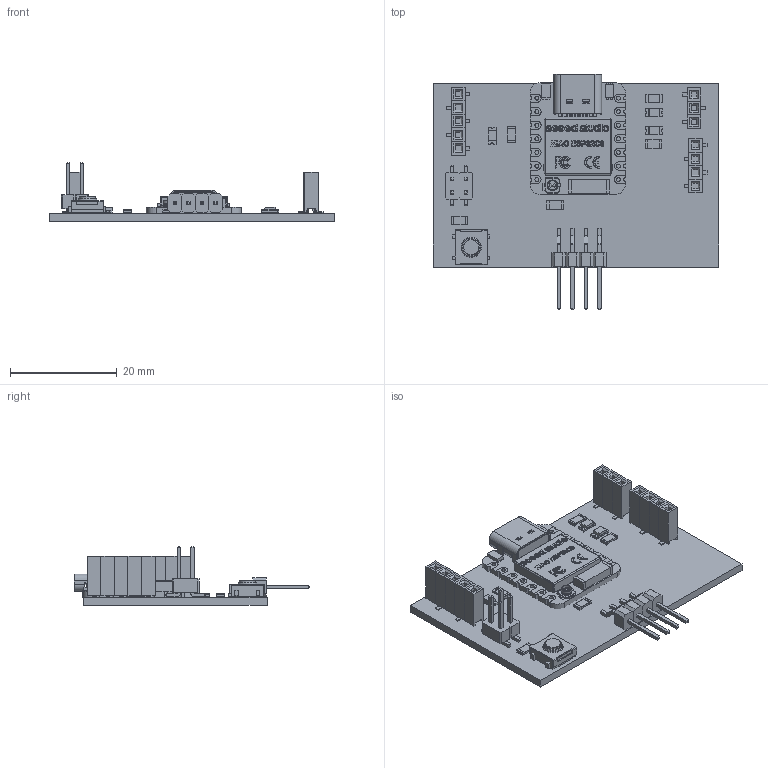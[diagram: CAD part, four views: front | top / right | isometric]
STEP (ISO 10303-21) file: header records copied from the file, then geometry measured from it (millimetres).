
FILE_DESCRIPTION(('KiCad electronic assembly'),'2;1');
FILE_NAME('Week6_DevBoard(XIAOESP32C6).step','2025-03-05T14:16:04',( 'Pcbnew'),('Kicad'),'Open CASCADE STEP processor 7.8', 'KiCad to STEP converter','Unknown');
FILE_SCHEMA(('AUTOMOTIVE_DESIGN { 1 0 10303 214 1 1 1 1 }'));
Length unit declared in the file: millimetre
Products named in the file (76): Week6_DevBoard(XIAOESP32C6) 1; PinSocket-01x04_P2.54mm_Vertical_SMD; Week6_DevBoard(XIAOESP32C6) 1.1.1; Week6_DevBoard(XIAOESP32C6) 1.1.2; Week6_DevBoard(XIAOESP32C6) 1.1.3; Week6_DevBoard(XIAOESP32C6) 1.1.4; Resistor-1206; Ceramic; Contacts; Contacts (Mirror #1); Overcoat; Header_SMD_01x04_P2.54mm_Horizontal_Male; Week6_DevBoard(XIAOESP32C6) 1.3.1; Week6_DevBoard(XIAOESP32C6) 1.3.2; Seeed Studio XIAO ESP32C6 v2; XIAO-ESP32S3 v2 v1; Seeed Studio XIAO-ESP32-S3 (Sense); USB TYPE C PORT; USB TYPE C PORT (1); BOSS-EXTRUDE14_8_; BOSS-EXTRUDE7_4_; BOSS-EXTRUDE7_3_; BOSS-EXTRUDE14_4_; BOSS-EXTRUDE14_2_; BOSS-EXTRUDE14_11_; BOSS-EXTRUDE7_7_; BOSS-EXTRUDE14_9_; BOSS-EXTRUDE14_3_; BOSS-EXTRUDE14_7_; MIRROR2; BOSS-EXTRUDE14_5_; BOSS-EXTRUDE14_12_; BOSS-EXTRUDE7_8_; BOSS-EXTRUDE7_1_; BOSS-EXTRUDE14_10_; BOSS-EXTRUDE7_9_; BOSS-EXTRUDE14_6_; CHAMFER9; BOSS-EXTRUDE14_1_; BOSS-EXTRUDE7_6_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
Assembly tree (82 placements, depth 7):
  Week6_DevBoard(XIAOESP32C6) 1
    PinSocket-01x04_P2.54mm_Vertical_SMD
      Week6_DevBoard(XIAOESP32C6) 1.1.1
      Week6_DevBoard(XIAOESP32C6) 1.1.2
      Week6_DevBoard(XIAOESP32C6) 1.1.3
      Week6_DevBoard(XIAOESP32C6) 1.1.4
    Resistor-1206  x5
      Ceramic
      Contacts
      Contacts (Mirror #1)
      Overcoat
    Header_SMD_01x04_P2.54mm_Horizontal_Male
      Week6_DevBoard(XIAOESP32C6) 1.3.1
      Week6_DevBoard(XIAOESP32C6) 1.3.2
    Seeed Studio XIAO ESP32C6 v2
      XIAO-ESP32S3 v2 v1
        Seeed Studio XIAO-ESP32-S3 (Sense)
          USB TYPE C PORT
            USB TYPE C PORT (1)
              BOSS-EXTRUDE14_8_
              BOSS-EXTRUDE7_4_
              BOSS-EXTRUDE7_3_
              BOSS-EXTRUDE14_4_
              BOSS-EXTRUDE14_2_
              BOSS-EXTRUDE14_11_
              BOSS-EXTRUDE7_7_
              BOSS-EXTRUDE14_9_
              BOSS-EXTRUDE14_3_
              BOSS-EXTRUDE14_7_
              MIRROR2
              BOSS-EXTRUDE14_5_
              BOSS-EXTRUDE14_12_
              BOSS-EXTRUDE7_8_
              BOSS-EXTRUDE7_1_
              BOSS-EXTRUDE14_10_
              BOSS-EXTRUDE7_9_
              BOSS-EXTRUDE14_6_
              CHAMFER9
              BOSS-EXTRUDE14_1_
              BOSS-EXTRUDE7_6_
              BOSS-EXTRUDE7_2_
              CUT-EXTRUDE5
              BOSS-EXTRUDE7_5_
          Shield
          SKTAAAE010 v1  x2
            Body
            Pins
          U.FL-R-SMT-1_10_ v1
          SOLID
      COMPOUND
    LED-1206  x3
      Base
      Emmiter
      Contact_1
      Contact_2
    PinHeader_2x02_P2.54mm_Vertical_SMD
    PinSocket-01x05_P2.54mm_Vertical_SMD
      Week6_DevBoard(XIAOESP32C6) 1.13.1
      Week6_DevBoard(XIAOESP32C6) 1.13.2
      Week6_DevBoard(XIAOESP32C6) 1.13.3
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Bounding box: 53.4 x 44.02 x 10.89 mm (x, y, z)
Volume: 4223.1 mm3; surface area: 8597.7 mm2
Topology: 117 solids, 122 shells, 2662 faces, 6765 edges, 4406 vertices
Faces by surface type: plane 2051, bspline 315, cylinder 257, torus 15, cone 10, revolution 8, sphere 6
Full cylindrical faces by diameter (mm): 0.5 x3, 0.6 x2, 0.75 x14, 1.524 x8, 1.72 x1, 1.86 x1, 2 x2, 3 x2
Entity records: 77889 total; most frequent: CARTESIAN_POINT 16536, ORIENTED_EDGE 12386, DIRECTION 10481, EDGE_CURVE 6193, LINE 5025, VECTOR 5025, VERTEX_POINT 4030, AXIS2_PLACEMENT_3D 2724
